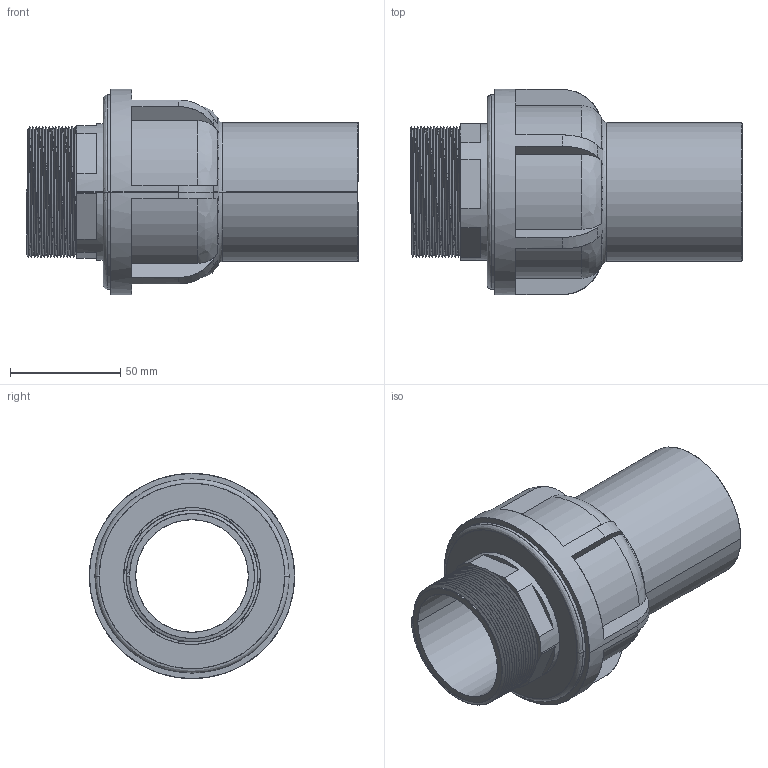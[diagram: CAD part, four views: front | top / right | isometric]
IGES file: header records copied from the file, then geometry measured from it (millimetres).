
Start section: SolidWorks IGES file using analytic representation for surfaces
Global section: file name: G:\Group\CAD\07 Requested Drawings - (uncontrolled)\HALINA DRAWINGS\ST\Fusion Plast Australia- drawings\Transition Adaptor\BIM\AX67136 - 63x2inch - male.IGS; native system: SolidWorks 2019; preprocessor: SolidWorks 2019; author: hwegrzynska; date: 210614.151608; units: millimetre
Bounding box: 150.47 x 93 x 93 mm (x, y, z)
Surface area: 73179.1 mm2 (no closed solid volume)
Topology: 0 solids, 0 shells, 117 faces, 2121 edges, 2119 vertices
Faces by surface type: bspline 63, revolution 54
